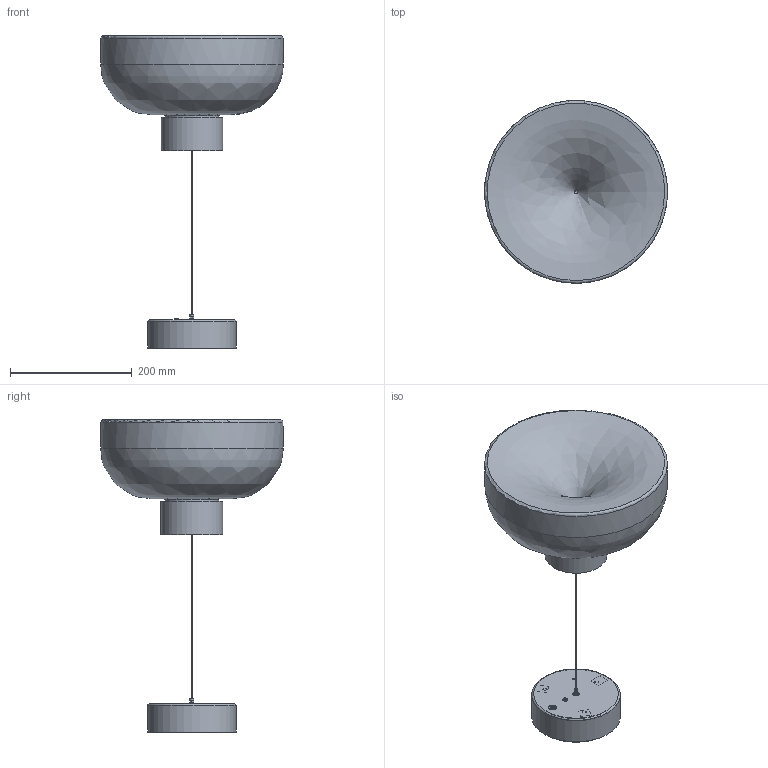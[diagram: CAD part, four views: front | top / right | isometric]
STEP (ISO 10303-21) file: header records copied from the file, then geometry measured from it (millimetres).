
FILE_DESCRIPTION(/* description */ ('AELLA SOSPENSIONE - S30'),/* implementation_level */ '2;1');
FILE_NAME(/* name */ '00500MC2LD1 - AELLA S30 COLLO BASSO.stp',/* time_stamp */ '2023-05-03T13:49:23+02:00',/* author */ ('davide.turci'),/* organization */ (''),/* preprocessor_version */ 'ST-DEVELOPER v19.2',/* originating_system */ 'Autodesk Inventor 2023',/* authorisation */ '');
FILE_SCHEMA (('AUTOMOTIVE_DESIGN { 1 0 10303 214 3 1 1 }'));
Length unit declared in the file: millimetre
Products named in the file (29): 00500MC2LD1; 00500V003-B; 00500C021-22; 00500C203; Z0004; Parte1; CLU028; W022; C008; 00500C226; DISTANZIATORE D.EST.6 D.INT.3.25 H.6MM; B001; B002; 00500C027; 00500C224; 00500C225; DISTANZIALE PRESSIONE M3 H8 FIL. PASS. TIPO SPECIALINSERT DP08 1 030 
12; DISTANZIALE PRESSIONE M4 H.6 FIL. PASS. TIPO SPECIALINSERT DP06 0 040.
12; CAVO ACC. INOX 1X49 L 3500MM + FIN D.3X3; ASM-ROS-02; PIA-ROS-02; COP-ROS-02; GRIPPER M10X1+CILINDRETTO SICUREZZA NICHEL; NIPPLO M10X1 STEAB 5016-3-7-011 NEUTRO; VITE TBEI M4X8 ACC.ZINC.NERO UNI7380; 00500C115; VITE TC AUTOFIL M2,9X9,5 ZN UNI6954AB DIN7981C; VITE TESTA CILINDRICA STEAB 5074-05 M3X0,5 H6; PASSACAVI STEAB 5284-0-0 POLIET.NEUTRO
Assembly tree (44 placements, depth 3):
  00500MC2LD1
    00500V003-B
    00500C021-22
    00500C203
      Z0004
      Parte1
      CLU028
      VITE TC AUTOFIL M2,9X9,5 ZN UNI6954AB DIN7981C  x4
      W022  x2
      C008
      00500C226
      DISTANZIATORE D.EST.6 D.INT.3.25 H.6MM  x2
      B001
      B002
    00500C027
    00500C224
      00500C225
      DISTANZIALE PRESSIONE M3 H8 FIL. PASS. TIPO SPECIALINSERT DP08 1 030 
12  x2
      DISTANZIALE PRESSIONE M4 H.6 FIL. PASS. TIPO SPECIALINSERT DP06 0 040.
12  x3
    CAVO ACC. INOX 1X49 L 3500MM + FIN D.3X3
    ASM-ROS-02
      PIA-ROS-02
      COP-ROS-02
      GRIPPER M10X1+CILINDRETTO SICUREZZA NICHEL
      NIPPLO M10X1 STEAB 5016-3-7-011 NEUTRO
      VITE TBEI M4X8 ACC.ZINC.NERO UNI7380
    00500C115  x3
    VITE TC AUTOFIL M2,9X9,5 ZN UNI6954AB DIN7981C  x3
    VITE TESTA CILINDRICA STEAB 5074-05 M3X0,5 H6  x2
    PASSACAVI STEAB 5284-0-0 POLIET.NEUTRO  x3
Bounding box: 299.82 x 299.55 x 511.99 mm (x, y, z)
Volume: 1089894.2 mm3; surface area: 675880.3 mm2
Topology: 45 solids, 45 shells, 1912 faces, 5048 edges, 3327 vertices
Faces by surface type: plane 1094, cylinder 615, cone 113, torus 56, bspline 23, sphere 11
Full cylindrical faces by diameter (mm): 1 x1, 1.15 x4, 1.5 x4, 2 x2, 2.25 x2, 2.3 x4, 2.459 x2, 2.5 x2, 2.9 x7, 3 x12, 3.2 x2, 3.25 x2, 3.3 x3, 3.5 x8, 4 x10, 4.5 x4, 5 x6, 5.38 x2, 5.4 x2, 5.5 x4, 5.8 x1, 5.917 x1, 6 x5, 6.2 x3, 6.5 x1, 6.6 x2, 7 x2, 7.11 x3, 7.2 x3, 7.6 x1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
Entity records: 55147 total; most frequent: CARTESIAN_POINT 10691, DIRECTION 9145, ORIENTED_EDGE 8838, EDGE_CURVE 4419, AXIS2_PLACEMENT_3D 3125, VERTEX_POINT 2917, LINE 2895, VECTOR 2895
